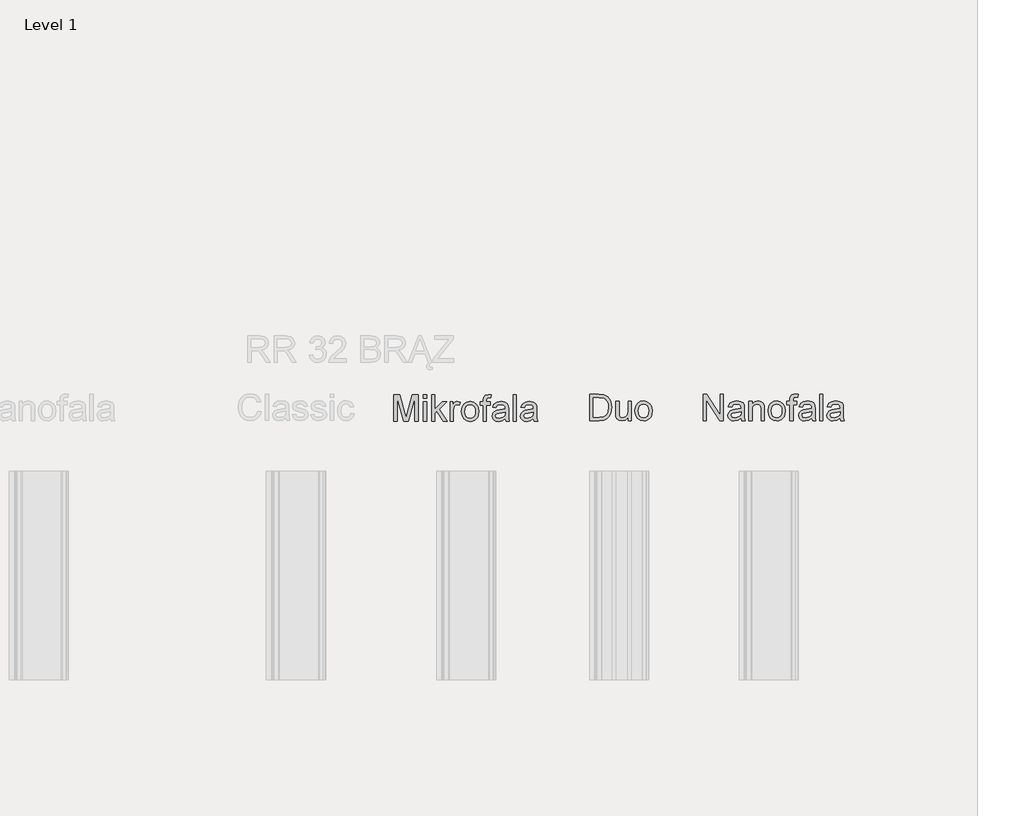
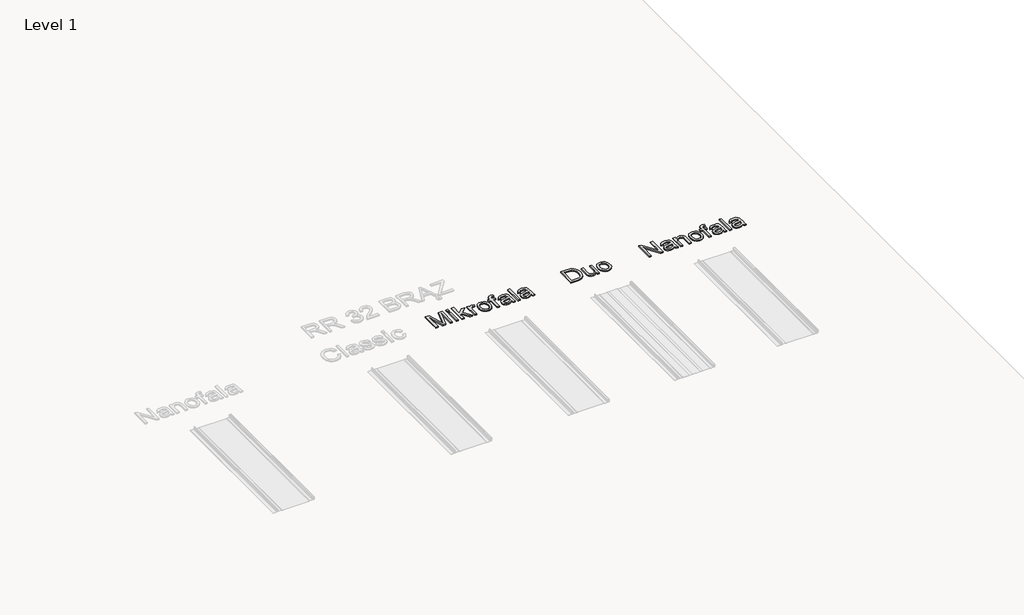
# One storey, part 23 of 24: 3 proxies.
"""IFC4 building model written with IfcOpenShell, lengths in millimetres."""

from ifc_helpers import new_model, si_unit, frame, origin, place, context, project, spatial, polyline, outline, extrude, element, save

model = new_model("IFC4")

# Units and contexts
model_context = context("Model", 3, world=origin())
ifc_project = project(units=[si_unit("LENGTHUNIT", "METRE", prefix="MILLI")], contexts=[model_context])

# Site, building, storey
site = spatial("IfcSite", under=ifc_project)
building = spatial("IfcBuilding", under=site)
storey = spatial("IfcBuildingStorey", under=building, Name="Level 1", Elevation=0.0)

# Proxies
placement = place(None, origin())
element("IfcBuildingElementProxy", 1, Name="150", ObjectType="150", at=placement, inside=storey, context=model_context, shape_type="SweptSolid", body=[
    extrude(outline(polyline([(4704.3345041, 1124.718613), (4704.3345041, 1275.4030782), (4736.6345432, 1275.4030782), (4767.5366308, 1169.1955462), (4773.7906247, 1147.0122619), (4780.5228653, 1171.0349562), (4810.8363417, 1275.4030782), (4843.2467454, 1275.4030782), (4843.2467454, 1124.718613), (4824.4111873, 1124.718613), (4824.4111873, 1256.5675201), (4786.55613, 1124.718613), (4761.0619077, 1124.718613), (4723.1700622, 1256.5675201), (4723.1700622, 1124.718613), (4704.3345041, 1124.718613)])), frame((0.0, 0.0, 600.0), z_axis=(0.0, 0.0, 1.0), x_axis=(1.0, 0.0, 0.0)), (0.0, 0.0, 1.0), 10.0),
    extrude(outline(polyline([(4873.8545274, 1256.5675201), (4873.8545274, 1275.4030782), (4892.6900856, 1275.4030782), (4892.6900856, 1256.5675201), (4873.8545274, 1256.5675201)])), frame((0.0, 0.0, 600.0), z_axis=(0.0, 0.0, 1.0), x_axis=(1.0, 0.0, 0.0)), (0.0, 0.0, 1.0), 10.0),
    extrude(outline(polyline([(4873.8545274, 1124.718613), (4873.8545274, 1235.3775171), (4892.6900856, 1235.3775171), (4892.6900856, 1124.718613), (4873.8545274, 1124.718613)])), frame((0.0, 0.0, 600.0), z_axis=(0.0, 0.0, 1.0), x_axis=(1.0, 0.0, 0.0)), (0.0, 0.0, 1.0), 10.0),
    extrude(outline(polyline([(4920.9434228, 1124.718613), (4920.9434228, 1275.4030782), (4939.778981, 1275.4030782), (4939.778981, 1194.4322511), (4982.011834, 1235.3775171), (5008.0578793, 1235.3775171), (4965.2732032, 1193.9172163), (5010.412324, 1124.718613), (4988.4129807, 1124.718613), (4951.771934, 1180.8206173), (4939.778981, 1169.158758), (4939.778981, 1124.718613), (4920.9434228, 1124.718613)])), frame((0.0, 0.0, 600.0), z_axis=(0.0, 0.0, 1.0), x_axis=(1.0, 0.0, 0.0)), (0.0, 0.0, 1.0), 10.0),
    extrude(outline(polyline([(5026.8934374, 1124.718613), (5026.8934374, 1235.3775171), (5043.3745508, 1235.3775171), (5043.3745508, 1219.0067684), (5055.0731983, 1234.0899302), (5066.8454221, 1237.7319619), (5085.7545567, 1231.9194264), (5079.4637745, 1215.0336428), (5066.2200227, 1218.8964038), (5055.5698389, 1215.1807956), (5048.7824161, 1204.8800997), (5045.7289956, 1182.8807564), (5045.7289956, 1124.718613), (5026.8934374, 1124.718613)])), frame((0.0, 0.0, 600.0), z_axis=(0.0, 0.0, 1.0), x_axis=(1.0, 0.0, 0.0)), (0.0, 0.0, 1.0), 10.0),
    extrude(outline(polyline([(5092.817891, 1180.0480651), (5096.8921841, 1206.7287068), (5109.1150633, 1225.4814915), (5124.2166192, 1234.6693443), (5142.2980193, 1237.7319619), (5162.0854721, 1234.0025582), (5177.8906023, 1222.814347), (5188.251079, 1205.0502452), (5191.7045713, 1181.5931694), (5190.177861, 1162.5644732), (5185.5977301, 1148.0791197), (5178.097536, 1137.2311993), (5167.8106357, 1129.1148028), (5155.5923549, 1124.0518269), (5142.2980193, 1122.3641682), (5122.2714432, 1126.0797764), (5106.4847071, 1137.2266008), (5096.234595, 1155.3631832), (5092.817891, 1180.0480651)]), holes=[polyline([(5111.6534491, 1180.0848533), (5113.8331499, 1163.0381213), (5120.3722524, 1150.8934169), (5130.2130958, 1143.623149), (5142.2980193, 1141.1997264), (5154.3277606, 1143.6369446), (5164.1502098, 1150.9485992), (5170.6893123, 1163.254252), (5172.8690131, 1180.6734645), (5170.6755167, 1197.2235557), (5164.0950275, 1209.2027132), (5154.2587827, 1216.4729811), (5142.2980193, 1218.8964038), (5130.2130958, 1216.4821782), (5120.3722524, 1209.2395014), (5113.8331499, 1197.1223882), (5111.6534491, 1180.0848533)])]), frame((0.0, 0.0, 600.0), z_axis=(0.0, 0.0, 1.0), x_axis=(1.0, 0.0, 0.0)), (0.0, 0.0, 1.0), 10.0),
    extrude(outline(polyline([(5217.6034637, 1124.718613), (5217.6034637, 1216.541959), (5201.1223503, 1216.541959), (5201.1223503, 1235.3775171), (5217.6034637, 1235.3775171), (5217.6034637, 1246.5243416), (5219.5900265, 1262.2329028), (5229.2285348, 1273.4533036), (5248.2112457, 1277.757523), (5265.3913349, 1275.6973838), (5262.6322199, 1258.039048), (5251.7797011, 1258.9219648), (5239.9155067, 1255.7949679), (5236.4390219, 1244.1331086), (5236.4390219, 1235.3775171), (5257.6290248, 1235.3775171), (5257.6290248, 1216.541959), (5236.4390219, 1216.541959), (5236.4390219, 1124.718613), (5217.6034637, 1124.718613)])), frame((0.0, 0.0, 600.0), z_axis=(0.0, 0.0, 1.0), x_axis=(1.0, 0.0, 0.0)), (0.0, 0.0, 1.0), 10.0),
    extrude(outline(polyline([(5344.7434813, 1138.8452816), (5326.4781402, 1126.0797764), (5306.2998128, 1122.3641682), (5290.5590619, 1124.5990513), (5278.9477864, 1131.3037007), (5271.7878831, 1141.4848349), (5269.4012486, 1154.1491726), (5273.0064922, 1169.0483934), (5282.4794536, 1179.8641241), (5295.6680231, 1186.0445416), (5311.9651955, 1188.8772329), (5344.6331167, 1195.3519561), (5344.7434813, 1199.5458108), (5343.4466972, 1207.9519144), (5339.5563451, 1213.4517502), (5330.8559359, 1217.5352404), (5318.7342242, 1218.8964038), (5299.6779368, 1215.2727661), (5290.5912516, 1202.4152904), (5271.7556934, 1204.7697351), (5279.9042796, 1223.1638349), (5296.3118166, 1233.9427774), (5321.1622454, 1237.7319619), (5343.9893232, 1234.3842357), (5356.8835871, 1225.9781322), (5362.6593344, 1213.1942328), (5363.5790394, 1196.7131194), (5363.5790394, 1173.2790364), (5364.5355326, 1140.5559329), (5368.2879289, 1124.718613), (5349.4523708, 1124.718613), (5344.7434813, 1138.8452816)]), holes=[polyline([(5344.7434813, 1176.5163979), (5314.3564285, 1170.7406506), (5298.1512266, 1167.68723), (5290.8119808, 1162.7208231), (5288.2368068, 1155.4735478), (5293.8470072, 1145.2832165), (5310.3097265, 1141.1997264), (5329.3660139, 1145.7062808), (5341.6532725, 1156.613982), (5344.6331167, 1171.182109), (5344.7434813, 1176.5163979)])]), frame((0.0, 0.0, 600.0), z_axis=(0.0, 0.0, 1.0), x_axis=(1.0, 0.0, 0.0)), (0.0, 0.0, 1.0), 10.0),
    extrude(outline(polyline([(5389.4779319, 1124.718613), (5389.4779319, 1275.4030782), (5408.31349, 1275.4030782), (5408.31349, 1124.718613), (5389.4779319, 1124.718613)])), frame((0.0, 0.0, 600.0), z_axis=(0.0, 0.0, 1.0), x_axis=(1.0, 0.0, 0.0)), (0.0, 0.0, 1.0), 10.0),
    extrude(outline(polyline([(5507.2001703, 1138.8452816), (5488.9348293, 1126.0797764), (5468.7565018, 1122.3641682), (5453.015751, 1124.5990513), (5441.4044755, 1131.3037007), (5434.2445722, 1141.4848349), (5431.8579377, 1154.1491726), (5435.4631813, 1169.0483934), (5444.9361426, 1179.8641241), (5458.1247122, 1186.0445416), (5474.4218846, 1188.8772329), (5507.0898057, 1195.3519561), (5507.2001703, 1199.5458108), (5505.9033863, 1207.9519144), (5502.0130342, 1213.4517502), (5493.312625, 1217.5352404), (5481.1909133, 1218.8964038), (5462.1346259, 1215.2727661), (5453.0479406, 1202.4152904), (5434.2123825, 1204.7697351), (5442.3609687, 1223.1638349), (5458.7685057, 1233.9427774), (5483.6189344, 1237.7319619), (5506.4460122, 1234.3842357), (5519.3402762, 1225.9781322), (5525.1160235, 1213.1942328), (5526.0357285, 1196.7131194), (5526.0357285, 1173.2790364), (5526.9922217, 1140.5559329), (5530.744618, 1124.718613), (5511.9090599, 1124.718613), (5507.2001703, 1138.8452816)]), holes=[polyline([(5507.2001703, 1176.5163979), (5476.8131175, 1170.7406506), (5460.6079156, 1167.68723), (5453.2686698, 1162.7208231), (5450.6934959, 1155.4735478), (5456.3036963, 1145.2832165), (5472.7664156, 1141.1997264), (5491.8227029, 1145.7062808), (5504.1099616, 1156.613982), (5507.0898057, 1171.182109), (5507.2001703, 1176.5163979)])]), frame((0.0, 0.0, 600.0), z_axis=(0.0, 0.0, 1.0), x_axis=(1.0, 0.0, 0.0)), (0.0, 0.0, 1.0), 10.0),
])
element("IfcBuildingElementProxy", 2, Name="150", ObjectType="150", at=placement, inside=storey, context=model_context, shape_type="SweptSolid", body=[
    extrude(outline(polyline([(5832.4192925, 1127.8407532), (5832.4192925, 1278.5252184), (5884.4010184, 1278.5252184), (5911.2931923, 1276.3547147), (5933.4396884, 1265.5757722), (5943.8599459, 1254.097854), (5951.2819651, 1239.8240325), (5955.7241402, 1223.0302195), (5957.2048653, 1203.9923262), (5953.1949515, 1173.5868793), (5942.8942557, 1151.6427183), (5929.135469, 1137.9759022), (5911.1276454, 1130.4159272), (5886.902616, 1127.8407532), (5832.4192925, 1127.8407532)]), holes=[polyline([(5851.2548507, 1146.6763114), (5884.5849594, 1146.6763114), (5908.8283829, 1149.3986381), (5922.8078987, 1157.0873718), (5934.2674229, 1175.7941713), (5938.3693071, 1204.2866318), (5936.3597517, 1224.8144471), (5930.3310855, 1239.9711853), (5921.4237427, 1250.3822458), (5910.7781575, 1256.6730279), (5884.0699246, 1259.6896603), (5851.2548507, 1259.6896603), (5851.2548507, 1146.6763114)])]), frame((0.0, 0.0, 600.0), z_axis=(0.0, 0.0, 1.0), x_axis=(1.0, 0.0, 0.0)), (0.0, 0.0, 1.0), 10.0),
    extrude(outline(polyline([(6051.382656, 1127.8407532), (6051.382656, 1146.8602524), (6036.630588, 1130.8297944), (6017.3903597, 1125.4863084), (5999.6768416, 1129.2387048), (5987.4631594, 1138.6564839), (5981.8529589, 1152.5256351), (5980.749313, 1170.0368181), (5980.749313, 1238.4996574), (5999.5848711, 1238.4996574), (5999.5848711, 1178.9027741), (6000.7253053, 1159.699334), (6008.1749157, 1148.4237508), (6022.2096138, 1144.3218666), (6037.9365691, 1148.5157213), (6048.3292355, 1159.9384573), (6051.382656, 1180.9261251), (6051.382656, 1238.4996574), (6070.2182142, 1238.4996574), (6070.2182142, 1127.8407532), (6051.382656, 1127.8407532)])), frame((0.0, 0.0, 600.0), z_axis=(0.0, 0.0, 1.0), x_axis=(1.0, 0.0, 0.0)), (0.0, 0.0, 1.0), 10.0),
    extrude(outline(polyline([(6091.4082171, 1183.1702053), (6095.4825102, 1209.850847), (6107.7053895, 1228.6036317), (6122.8069454, 1237.7914845), (6140.8883455, 1240.8541021), (6160.6757983, 1237.1246984), (6176.4809285, 1225.9364872), (6186.8414052, 1208.1723854), (6190.2948974, 1184.7153097), (6188.7681871, 1165.6866135), (6184.1880563, 1151.2012599), (6176.6878621, 1140.3533396), (6166.4009618, 1132.2369431), (6154.1826811, 1127.1739671), (6140.8883455, 1125.4863084), (6120.8617693, 1129.2019166), (6105.0750332, 1140.348741), (6094.8249211, 1158.4853234), (6091.4082171, 1183.1702053)]), holes=[polyline([(6110.2437753, 1183.2069935), (6112.4234761, 1166.1602615), (6118.9625785, 1154.0155572), (6128.8034219, 1146.7452892), (6140.8883455, 1144.3218666), (6152.9180867, 1146.7590848), (6162.740536, 1154.0707395), (6169.2796384, 1166.3763922), (6171.4593393, 1183.7956047), (6169.2658429, 1200.3456959), (6162.6853537, 1212.3248534), (6152.8491088, 1219.5951213), (6140.8883455, 1222.018544), (6128.8034219, 1219.6043184), (6118.9625785, 1212.3616416), (6112.4234761, 1200.2445284), (6110.2437753, 1183.2069935)])]), frame((0.0, 0.0, 600.0), z_axis=(0.0, 0.0, 1.0), x_axis=(1.0, 0.0, 0.0)), (0.0, 0.0, 1.0), 10.0),
])
element("IfcBuildingElementProxy", 3, Name="150", ObjectType="150", at=placement, inside=storey, context=model_context, shape_type="SweptSolid", body=[
    extrude(outline(polyline([(6483.2193428, 1127.8407532), (6483.2193428, 1278.5252184), (6503.3792761, 1278.5252184), (6582.1060231, 1159.147511), (6582.1060231, 1278.5252184), (6600.9415812, 1278.5252184), (6600.9415812, 1127.8407532), (6580.7816479, 1127.8407532), (6502.0549009, 1247.2552488), (6502.0549009, 1127.8407532), (6483.2193428, 1127.8407532)])), frame((0.0, 0.0, 600.0), z_axis=(0.0, 0.0, 1.0), x_axis=(1.0, 0.0, 0.0)), (0.0, 0.0, 1.0), 10.0),
    extrude(outline(polyline([(6702.1827063, 1141.9674218), (6683.9173653, 1129.2019166), (6663.7390378, 1125.4863084), (6647.998287, 1127.7211916), (6636.3870115, 1134.4258409), (6629.2271081, 1144.6069751), (6626.8404737, 1157.2713128), (6630.4457173, 1172.1705336), (6639.9186786, 1182.9862643), (6653.1072482, 1189.1666818), (6669.4044205, 1191.9993732), (6702.0723417, 1198.4740963), (6702.1827063, 1202.667951), (6700.8859223, 1211.0740546), (6696.9955702, 1216.5738904), (6688.295161, 1220.6573806), (6676.1734493, 1222.018544), (6657.1171619, 1218.3949063), (6648.0304766, 1205.5374306), (6629.1949185, 1207.8918754), (6637.3435047, 1226.2859751), (6653.7510417, 1237.0649176), (6678.6014704, 1240.8541021), (6701.4285482, 1237.506376), (6714.3228122, 1229.1002724), (6720.0985595, 1216.316373), (6721.0182645, 1199.8352597), (6721.0182645, 1176.4011766), (6721.9747577, 1143.6780731), (6725.727154, 1127.8407532), (6706.8915959, 1127.8407532), (6702.1827063, 1141.9674218)]), holes=[polyline([(6702.1827063, 1179.6385381), (6671.7956535, 1173.8627908), (6655.5904516, 1170.8093702), (6648.2512058, 1165.8429633), (6645.6760319, 1158.595688), (6651.2862323, 1148.4053567), (6667.7489516, 1144.3218666), (6686.8052389, 1148.828421), (6699.0924976, 1159.7361222), (6702.0723417, 1174.3042492), (6702.1827063, 1179.6385381)])]), frame((0.0, 0.0, 600.0), z_axis=(0.0, 0.0, 1.0), x_axis=(1.0, 0.0, 0.0)), (0.0, 0.0, 1.0), 10.0),
    extrude(outline(polyline([(6746.9171569, 1127.8407532), (6746.9171569, 1238.4996574), (6765.7527151, 1238.4996574), (6765.7527151, 1223.0486136), (6780.1552952, 1236.40273), (6799.8185878, 1240.8541021), (6817.6056823, 1237.2672527), (6829.7457881, 1227.8494736), (6835.3927768, 1213.9987165), (6836.3860582, 1195.7885577), (6836.3860582, 1127.8407532), (6817.5505, 1127.8407532), (6817.5505, 1193.250172), (6815.3799962, 1209.9152263), (6807.7096566, 1218.7260001), (6794.7786045, 1222.018544), (6783.7467432, 1220.1699369), (6774.3427597, 1214.6241159), (6767.9002262, 1203.9095528), (6765.7527151, 1186.5547196), (6765.7527151, 1127.8407532), (6746.9171569, 1127.8407532)])), frame((0.0, 0.0, 600.0), z_axis=(0.0, 0.0, 1.0), x_axis=(1.0, 0.0, 0.0)), (0.0, 0.0, 1.0), 10.0),
    extrude(outline(polyline([(6857.5760611, 1183.1702053), (6861.6503542, 1209.850847), (6873.8732335, 1228.6036317), (6888.9747894, 1237.7914845), (6907.0561894, 1240.8541021), (6926.8436422, 1237.1246984), (6942.6487725, 1225.9364872), (6953.0092492, 1208.1723854), (6956.4627414, 1184.7153097), (6954.9360311, 1165.6866135), (6950.3559003, 1151.2012599), (6942.8557061, 1140.3533396), (6932.5688058, 1132.2369431), (6920.350525, 1127.1739671), (6907.0561894, 1125.4863084), (6887.0296133, 1129.2019166), (6871.2428772, 1140.348741), (6860.9927651, 1158.4853234), (6857.5760611, 1183.1702053)]), holes=[polyline([(6876.4116192, 1183.2069935), (6878.5913201, 1166.1602615), (6885.1304225, 1154.0155572), (6894.9712659, 1146.7452892), (6907.0561894, 1144.3218666), (6919.0859307, 1146.7590848), (6928.9083799, 1154.0707395), (6935.4474824, 1166.3763922), (6937.6271832, 1183.7956047), (6935.4336868, 1200.3456959), (6928.8531976, 1212.3248534), (6919.0169528, 1219.5951213), (6907.0561894, 1222.018544), (6894.9712659, 1219.6043184), (6885.1304225, 1212.3616416), (6878.5913201, 1200.2445284), (6876.4116192, 1183.2069935)])]), frame((0.0, 0.0, 600.0), z_axis=(0.0, 0.0, 1.0), x_axis=(1.0, 0.0, 0.0)), (0.0, 0.0, 1.0), 10.0),
    extrude(outline(polyline([(6982.3616338, 1127.8407532), (6982.3616338, 1219.6640992), (6965.8805205, 1219.6640992), (6965.8805205, 1238.4996574), (6982.3616338, 1238.4996574), (6982.3616338, 1249.6464818), (6984.3481966, 1265.355043), (6993.9867049, 1276.5754439), (7012.9694158, 1280.8796632), (7030.149505, 1278.819524), (7027.3903901, 1261.1611883), (7016.5378712, 1262.044105), (7004.6736769, 1258.9171081), (7001.197192, 1247.2552488), (7001.197192, 1238.4996574), (7022.3871949, 1238.4996574), (7022.3871949, 1219.6640992), (7001.197192, 1219.6640992), (7001.197192, 1127.8407532), (6982.3616338, 1127.8407532)])), frame((0.0, 0.0, 600.0), z_axis=(0.0, 0.0, 1.0), x_axis=(1.0, 0.0, 0.0)), (0.0, 0.0, 1.0), 10.0),
    extrude(outline(polyline([(7109.5016514, 1141.9674218), (7091.2363103, 1129.2019166), (7071.0579829, 1125.4863084), (7055.317232, 1127.7211916), (7043.7059565, 1134.4258409), (7036.5460532, 1144.6069751), (7034.1594188, 1157.2713128), (7037.7646623, 1172.1705336), (7047.2376237, 1182.9862643), (7060.4261932, 1189.1666818), (7076.7233656, 1191.9993732), (7109.3912868, 1198.4740963), (7109.5016514, 1202.667951), (7108.2048673, 1211.0740546), (7104.3145152, 1216.5738904), (7095.6141061, 1220.6573806), (7083.4923943, 1222.018544), (7064.436107, 1218.3949063), (7055.3494217, 1205.5374306), (7036.5138635, 1207.8918754), (7044.6624497, 1226.2859751), (7061.0699867, 1237.0649176), (7085.9204155, 1240.8541021), (7108.7474933, 1237.506376), (7121.6417572, 1229.1002724), (7127.4175045, 1216.316373), (7128.3372095, 1199.8352597), (7128.3372095, 1176.4011766), (7129.2937027, 1143.6780731), (7133.0460991, 1127.8407532), (7114.2105409, 1127.8407532), (7109.5016514, 1141.9674218)]), holes=[polyline([(7109.5016514, 1179.6385381), (7079.1145986, 1173.8627908), (7062.9093967, 1170.8093702), (7055.5701509, 1165.8429633), (7052.9949769, 1158.595688), (7058.6051773, 1148.4053567), (7075.0678966, 1144.3218666), (7094.124184, 1148.828421), (7106.4114426, 1159.7361222), (7109.3912868, 1174.3042492), (7109.5016514, 1179.6385381)])]), frame((0.0, 0.0, 600.0), z_axis=(0.0, 0.0, 1.0), x_axis=(1.0, 0.0, 0.0)), (0.0, 0.0, 1.0), 10.0),
    extrude(outline(polyline([(7154.236102, 1127.8407532), (7154.236102, 1278.5252184), (7173.0716601, 1278.5252184), (7173.0716601, 1127.8407532), (7154.236102, 1127.8407532)])), frame((0.0, 0.0, 600.0), z_axis=(0.0, 0.0, 1.0), x_axis=(1.0, 0.0, 0.0)), (0.0, 0.0, 1.0), 10.0),
    extrude(outline(polyline([(7271.9583404, 1141.9674218), (7253.6929994, 1129.2019166), (7233.514672, 1125.4863084), (7217.7739211, 1127.7211916), (7206.1626456, 1134.4258409), (7199.0027423, 1144.6069751), (7196.6161078, 1157.2713128), (7200.2213514, 1172.1705336), (7209.6943128, 1182.9862643), (7222.8828823, 1189.1666818), (7239.1800547, 1191.9993732), (7271.8479758, 1198.4740963), (7271.9583404, 1202.667951), (7270.6615564, 1211.0740546), (7266.7712043, 1216.5738904), (7258.0707951, 1220.6573806), (7245.9490834, 1222.018544), (7226.892796, 1218.3949063), (7217.8061108, 1205.5374306), (7198.9705526, 1207.8918754), (7207.1191388, 1226.2859751), (7223.5266758, 1237.0649176), (7248.3771046, 1240.8541021), (7271.2041824, 1237.506376), (7284.0984463, 1229.1002724), (7289.8741936, 1216.316373), (7290.7938986, 1199.8352597), (7290.7938986, 1176.4011766), (7291.7503918, 1143.6780731), (7295.5027881, 1127.8407532), (7276.66723, 1127.8407532), (7271.9583404, 1141.9674218)]), holes=[polyline([(7271.9583404, 1179.6385381), (7241.5712876, 1173.8627908), (7225.3660858, 1170.8093702), (7218.02684, 1165.8429633), (7215.451666, 1158.595688), (7221.0618664, 1148.4053567), (7237.5245857, 1144.3218666), (7256.580873, 1148.828421), (7268.8681317, 1159.7361222), (7271.8479758, 1174.3042492), (7271.9583404, 1179.6385381)])]), frame((0.0, 0.0, 600.0), z_axis=(0.0, 0.0, 1.0), x_axis=(1.0, 0.0, 0.0)), (0.0, 0.0, 1.0), 10.0),
])

save(model, "model.ifc")
